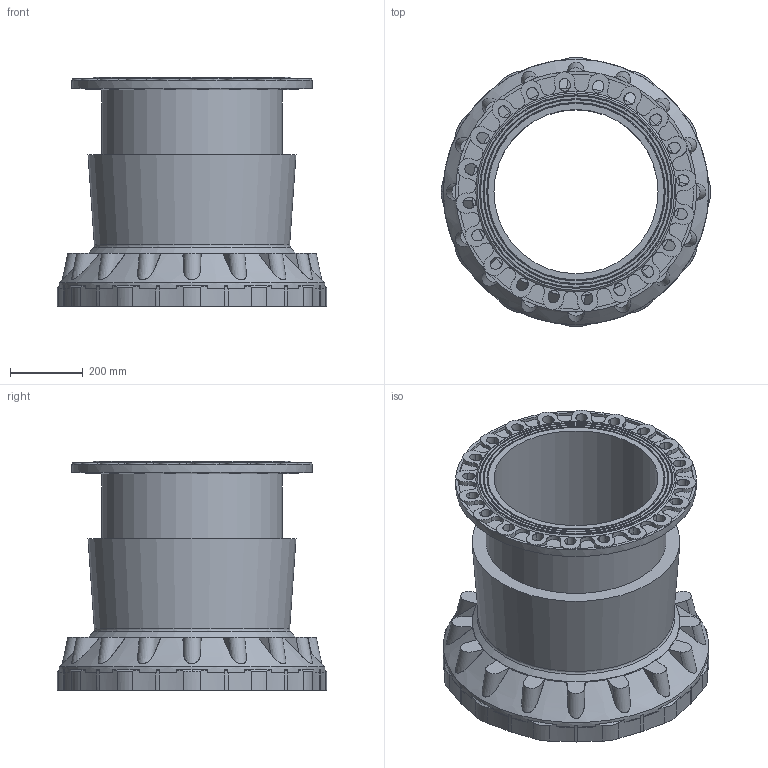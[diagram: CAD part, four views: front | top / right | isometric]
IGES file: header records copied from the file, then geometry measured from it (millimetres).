
Start section: SolidWorks IGES file using analytic representation for surfaces
Global section: file name: \\avksan2\techshare\PBM outline export from Enovia\O_633_00_DN450_AA0.igs; native system: SolidWorks 2012; preprocessor: SolidWorks 2012; author: pbm; date: 180703.074809; units: millimetre
Bounding box: 739 x 739 x 628.68 mm (x, y, z)
Surface area: 2881083.1 mm2 (no closed solid volume)
Topology: 0 solids, 0 shells, 495 faces, 2856 edges, 2833 vertices
Faces by surface type: revolution 346, bspline 149
